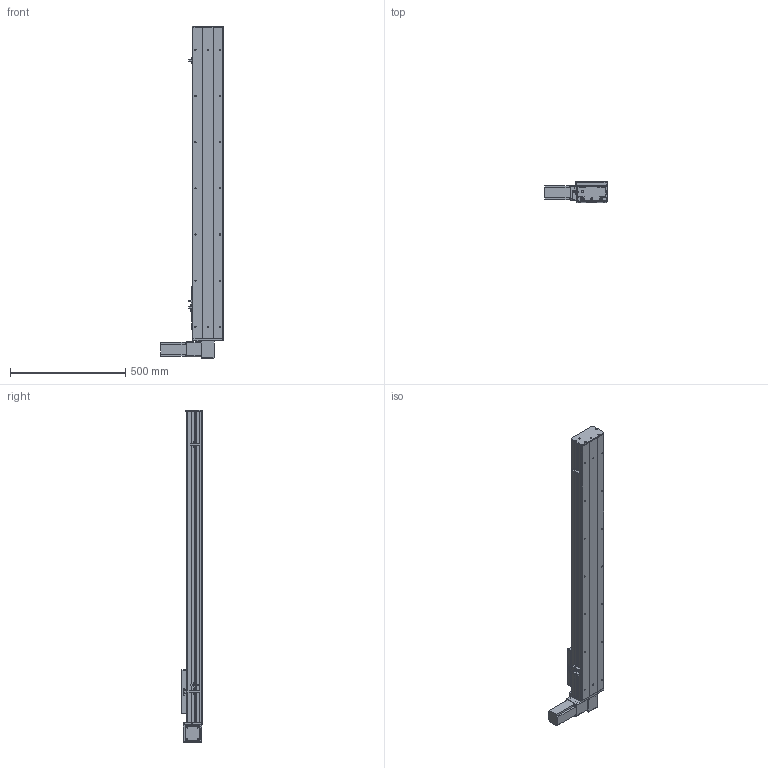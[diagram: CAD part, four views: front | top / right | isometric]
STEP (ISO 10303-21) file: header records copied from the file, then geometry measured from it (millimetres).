
FILE_DESCRIPTION (( 'STEP AP203' ), '1' );
FILE_NAME ('Y135CB-D90-S1050-BD-P400W.STEP', '2020-02-19T03:32:21', ( '微软用户' ), ( '微软中国' ), 'SwSTEP 2.0', 'SolidWorks 2017', '' );
FILE_SCHEMA (( 'CONFIG_CONTROL_DESIGN' ));
Length unit declared in the file: millimetre
Products named in the file (16): C-詩湍揤踡え-陔; 135CB--詩湍-CE; Y135CB-耜裔; Y100-135俋离換覜ん--; 135CB---遴掛极.-; Y135C-陔俋离換覜結え-; 35CB---喘謫眊楊擘啣; 5C--俋欶; 0B-埴倛裔啣; C-雄赽釱--; 0B-源倛裔啣; Y10B--々湍喘謫眊--666; san松下电机400不带刹车----; 0B-薊粣ん眊; 5CB --掛极耜裔啣-; Y135CB-D90-S1050-BD-P400W
Assembly tree (19 placements, depth 2):
  Y135CB-D90-S1050-BD-P400W
    Y135CB-耜裔
    135CB---遴掛极.-
    35CB---喘謫眊楊擘啣
    0B-埴倛裔啣
    0B-源倛裔啣
    san松下电机400不带刹车----
    5CB --掛极耜裔啣-  x2
    C-詩湍揤踡え-陔  x2
    135CB--詩湍-CE
    Y100-135俋离換覜ん--  x3
    Y135C-陔俋离換覜結え-
    5C--俋欶
    C-雄赽釱--
    Y10B--々湍喘謫眊--666
    0B-薊粣ん眊
Bounding box: 272 x 91 x 1438 mm (x, y, z)
Volume: 4516694.9 mm3; surface area: 1724597.6 mm2
Topology: 19 solids, 19 shells, 855 faces, 2266 edges, 1500 vertices
Faces by surface type: cylinder 424, plane 415, cone 16
Entity records: 26006 total; most frequent: DIRECTION 4334, CARTESIAN_POINT 4247, ORIENTED_EDGE 4008, EDGE_CURVE 2004, AXIS2_PLACEMENT_3D 1587, VERTEX_POINT 1328, LINE 1160, VECTOR 1160
